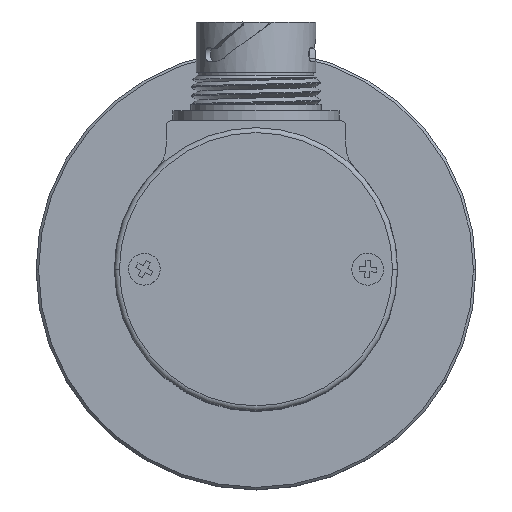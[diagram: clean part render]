
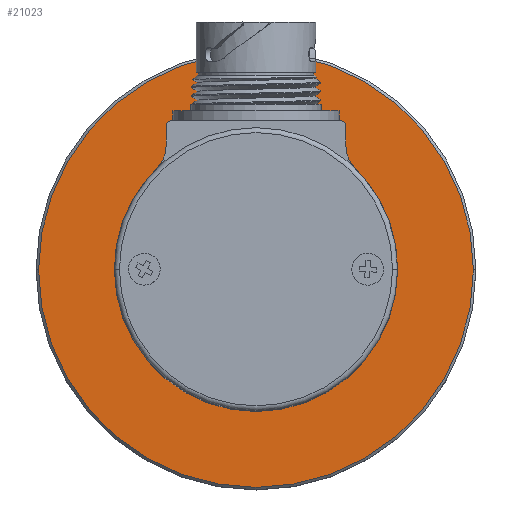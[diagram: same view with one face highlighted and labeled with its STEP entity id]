
A CAD part, top view. The second image highlights one B-rep face of the part: STEP entity #21023.
In plain terms, the highlighted planar face has unit normal (0, 0, 1).
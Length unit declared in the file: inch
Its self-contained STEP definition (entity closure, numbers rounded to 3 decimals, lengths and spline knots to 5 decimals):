
#768 = EDGE_LOOP ( 'NONE', ( #14505, #21587 ) ) ;
#809 = VERTEX_POINT ( 'NONE', #6013 ) ;
#938 = CARTESIAN_POINT ( 'NONE',  ( 0., 0., 0. ) ) ;
#956 = CARTESIAN_POINT ( 'NONE',  ( 0., 0., 0. ) ) ;
#1442 = CIRCLE ( 'NONE', #29578, 1.75165 ) ;
#2390 = DIRECTION ( 'NONE',  ( 0., 0., 1. ) ) ;
#2752 = DIRECTION ( 'NONE',  ( -1., 0., 0. ) ) ;
#2867 = DIRECTION ( 'NONE',  ( 0., 0., 1. ) ) ;
#4771 = VERTEX_POINT ( 'NONE', #28784 ) ;
#5489 = ORIENTED_EDGE ( 'NONE', *, *, #5778, .F. ) ;
#5778 = EDGE_CURVE ( 'NONE', #809, #4771, #19548, .T. ) ;
#5800 = DIRECTION ( 'NONE',  ( 0., 0., 1. ) ) ;
#6013 = CARTESIAN_POINT ( 'NONE',  ( 1.1405, 0., 0. ) ) ;
#6928 = CIRCLE ( 'NONE', #9501, 1.1405 ) ;
#7845 = EDGE_CURVE ( 'NONE', #4771, #809, #6928, .T. ) ;
#9501 = AXIS2_PLACEMENT_3D ( 'NONE', #956, #29401, #12510 ) ;
#9621 = CARTESIAN_POINT ( 'NONE',  ( 0., 0., 0. ) ) ;
#9819 = CARTESIAN_POINT ( 'NONE',  ( -1.75165, 0., 0. ) ) ;
#11368 = CIRCLE ( 'NONE', #25039, 1.75165 ) ;
#12282 = DIRECTION ( 'NONE',  ( -1., 0., 0. ) ) ;
#12510 = DIRECTION ( 'NONE',  ( -1., 0., 0. ) ) ;
#12679 = EDGE_LOOP ( 'NONE', ( #20363, #5489 ) ) ;
#14505 = ORIENTED_EDGE ( 'NONE', *, *, #22708, .T. ) ;
#14767 = CARTESIAN_POINT ( 'NONE',  ( 0., 0., 0. ) ) ;
#16595 = DIRECTION ( 'NONE',  ( 0., 0., -1. ) ) ;
#17013 = FACE_BOUND ( 'NONE', #12679, .T. ) ;
#18870 = FACE_OUTER_BOUND ( 'NONE', #768, .T. ) ;
#18900 = DIRECTION ( 'NONE',  ( -1., 0., 0. ) ) ;
#19167 = PLANE ( 'NONE',  #21222 ) ;
#19548 = CIRCLE ( 'NONE', #22848, 1.1405 ) ;
#20363 = ORIENTED_EDGE ( 'NONE', *, *, #7845, .F. ) ;
#21023 = ADVANCED_FACE ( 'NONE', ( #18870, #17013 ), #19167, .F. ) ;
#21222 = AXIS2_PLACEMENT_3D ( 'NONE', #23614, #16595, #2752 ) ;
#21587 = ORIENTED_EDGE ( 'NONE', *, *, #23890, .T. ) ;
#22708 = EDGE_CURVE ( 'NONE', #26921, #25727, #1442, .T. ) ;
#22848 = AXIS2_PLACEMENT_3D ( 'NONE', #14767, #2867, #12282 ) ;
#23614 = CARTESIAN_POINT ( 'NONE',  ( 0., 0., 0. ) ) ;
#23890 = EDGE_CURVE ( 'NONE', #25727, #26921, #11368, .T. ) ;
#25039 = AXIS2_PLACEMENT_3D ( 'NONE', #938, #5800, #26663 ) ;
#25727 = VERTEX_POINT ( 'NONE', #25995 ) ;
#25995 = CARTESIAN_POINT ( 'NONE',  ( 1.75165, 0., 0. ) ) ;
#26663 = DIRECTION ( 'NONE',  ( -1., 0., 0. ) ) ;
#26921 = VERTEX_POINT ( 'NONE', #9819 ) ;
#28784 = CARTESIAN_POINT ( 'NONE',  ( -1.1405, 0., 0. ) ) ;
#29401 = DIRECTION ( 'NONE',  ( 0., 0., 1. ) ) ;
#29578 = AXIS2_PLACEMENT_3D ( 'NONE', #9621, #2390, #18900 ) ;
